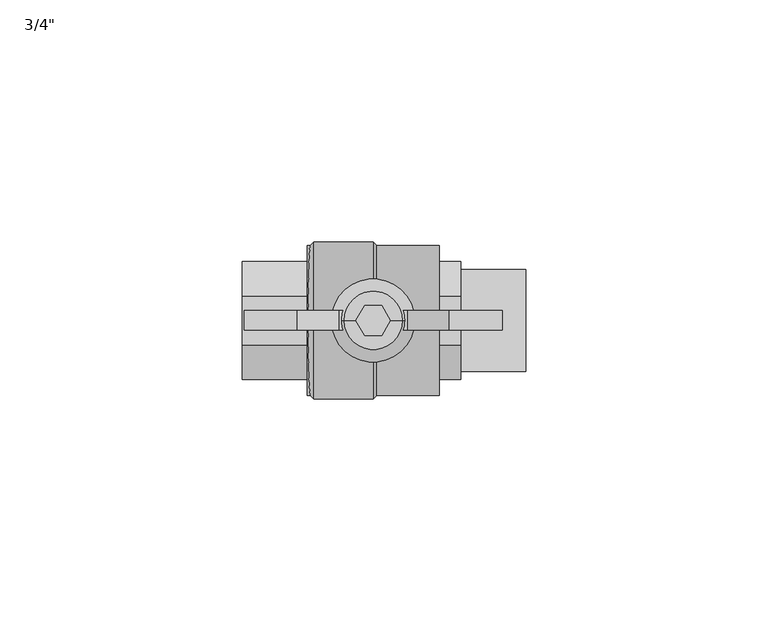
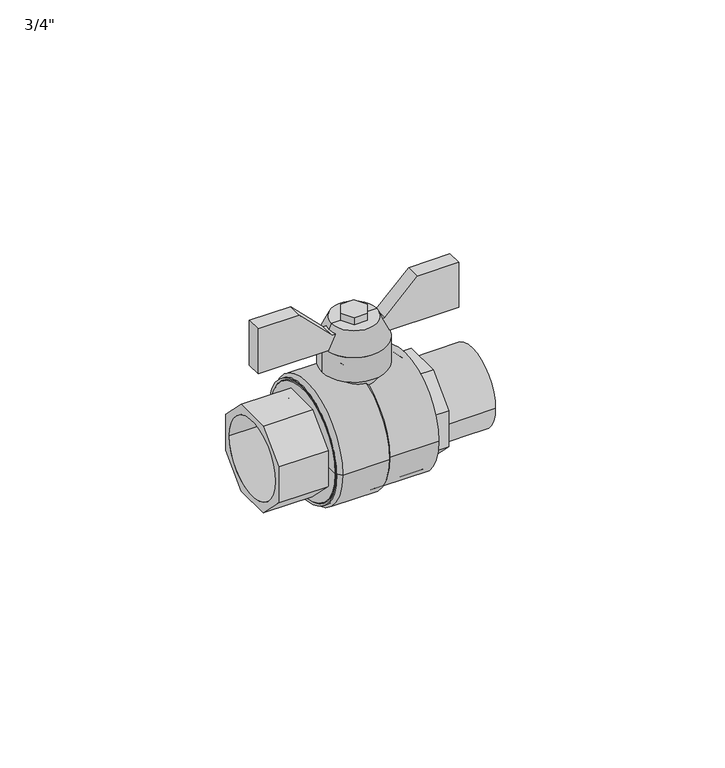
"""IFC4 building model written with IfcOpenShell, lengths in millimetres: pipe fitting geometry."""

from ifc_helpers import new_model, si_unit, point, frame, origin, origin_with_axes, origin_2d, place, context, project, spatial, polyline, circle_curve, trimmed, segment, composite_curve, outline, extrude, source, transform, mapped, element, save
from ifc_brep_helpers import plane_surface, cylinder_surface, revolved_surface, advanced_brep


def pipe_fitting_b5fef691(model_context):
    return source(origin(), model_context, "Body", "SolidModel", [
        advanced_brep(
        [(0.7042017, -15.5, 0.0), (0.7042017, 15.5, 0.0), (13.65, 15.5, 0.0), (13.65, -15.5, 0.0), (13.65, 0.0, 0.0), (-13.65, 0.0, 0.0), (-13.65, 14.7957864, 0.0), (-13.65, -14.7957864, 0.0), (-12.2357864, -16.21, 0.0), (-12.2357864, 16.21, 0.0), (0.0, 16.21, 0.0), (0.0, -16.21, 0.0)],
        [
            (0, 1, circle_curve(frame((0.7042017, 0.0, 0.0), z_axis=(1.0, 0.0, 0.0), x_axis=(0.0, 1.0, 0.0)), 15.5)),
            (1, 2),
            (2, 3, circle_curve(frame((13.65, 0.0, 0.0), z_axis=(-1.0, 0.0, 0.0), x_axis=(0.0, 1.0, 0.0)), 15.5)),
            (3, 0),
            (1, 0, circle_curve(frame((0.7042017, 0.0, 0.0), z_axis=(1.0, 0.0, 0.0), x_axis=(0.0, 1.0, 0.0)), 15.5)),
            (3, 2, circle_curve(frame((13.65, 0.0, 0.0), z_axis=(-1.0, 0.0, 0.0), x_axis=(0.0, 1.0, 0.0)), 15.5)),
            (2, 4),
            (4, 3),
            (5, 6),
            (6, 7, circle_curve(frame((-13.65, 0.0, 0.0), z_axis=(-1.0, 0.0, 0.0), x_axis=(0.0, 1.0, 0.0)), 14.7957864)),
            (7, 5),
            (7, 6, circle_curve(frame((-13.65, 0.0, 0.0), z_axis=(-1.0, 0.0, 0.0), x_axis=(0.0, 1.0, 0.0)), 14.7957864)),
            (8, 9, circle_curve(frame((-12.2357864, 0.0, 0.0), z_axis=(1.0, 0.0, 0.0), x_axis=(0.0, 1.0, 0.0)), 16.21)),
            (9, 10),
            (10, 11, circle_curve(frame((0.0, 0.0, 0.0), z_axis=(-1.0, 0.0, 0.0), x_axis=(0.0, 1.0, 0.0)), 16.21)),
            (11, 8),
            (9, 8, circle_curve(frame((-12.2357864, 0.0, 0.0), z_axis=(1.0, 0.0, 0.0), x_axis=(0.0, 1.0, 0.0)), 16.21)),
            (11, 10, circle_curve(frame((0.0, 0.0, 0.0), z_axis=(-1.0, 0.0, 0.0), x_axis=(0.0, 1.0, 0.0)), 16.21)),
            (6, 9),
            (8, 7),
            (10, 1),
            (0, 11),
        ],
        [
            cylinder_surface(frame((-1993.4369923, 0.0, 0.0), z_axis=(-1.0, 0.0, 0.0), x_axis=(0.0, 1.0, 0.0)), 15.5),
            plane_surface(frame((13.65, 0.0, 0.0), z_axis=(1.0, 0.0, 0.0), x_axis=(0.0, 1.0, 0.0))),
            plane_surface(frame((-13.65, 0.0, 0.0), z_axis=(-1.0, 0.0, 0.0), x_axis=(0.0, 1.0, 0.0))),
            cylinder_surface(frame((-1993.4369923, 0.0, 0.0), z_axis=(-1.0, 0.0, 0.0), x_axis=(0.0, 1.0, 0.0)), 16.21),
            revolved_surface(polyline([(-12.2357864, 16.21, 0.0), (-13.65, 14.7957864, 0.0)]), (-1993.4369923, 0.0, 0.0), (-1.0, 0.0, 0.0)),
            revolved_surface(polyline([(0.7042017, 15.5, 0.0), (0.0, 16.21, 0.0)]), (-1993.4369923, 0.0, 0.0), (-1.0, 0.0, 0.0)),
        ],
        [
            (0, [[1, 2, 3, 4]]),
            (0, [[5, -4, 6, -2]]),
            (1, [[-3, 7, 8]]),
            (1, [[-6, -8, -7]]),
            (2, [[9, 10, 11]]),
            (2, [[-11, 12, -9]]),
            (3, [[13, 14, 15, 16]]),
            (3, [[17, -16, 18, -14]]),
            (4, [[-10, 19, -13, 20]]),
            (4, [[-12, -20, -17, -19]]),
            (5, [[-15, 21, -1, 22]]),
            (5, [[-18, -22, -5, -21]]),
        ],
    ),
        extrude(outline(composite_curve([segment(trimmed(circle_curve(origin_2d(), 10.525), [point((10.525, 0.0))], [point((-10.525, 0.0))], False, "CARTESIAN"), True, "CONTINUOUS"), segment(trimmed(circle_curve(origin_2d(), 10.525), [point((-10.525, 0.0))], [point((10.525, 0.0))], False, "CARTESIAN"), True, "CONTINUOUS")], self_intersect=False), holes=[composite_curve([segment(trimmed(circle_curve(origin_2d(), 9.525), [point((9.525, 0.0))], [point((-9.525, 0.0))], True, "CARTESIAN"), True, "CONTINUOUS"), segment(trimmed(circle_curve(origin_2d(), 9.525), [point((-9.525, 0.0))], [point((9.525, 0.0))], True, "CARTESIAN"), True, "CONTINUOUS")], self_intersect=False)]), frame((18.15, 0.0, 0.0), z_axis=(1.0, 0.0, 0.0), x_axis=(0.0, 1.0, 0.0)), (0.0, 0.0, 1.0), 13.4),
        extrude(outline(polyline([(-3.5393146, 0.0), (-1.75, 3.0991838), (1.75, 3.0991838), (3.5393146, 0.0), (1.75, -3.1008162), (-1.75, -3.1008162), (-3.5393146, 0.0)])), frame((0.0, 0.0, 30.66), z_axis=(0.0, 0.0, 1.0), x_axis=(1.0, 0.0, 0.0)), (0.0, 0.0, 1.0), 2.0),
        extrude(outline(polyline([(24.9, -26.65), (24.9, -3.0), (28.9, -3.0), (28.9, -7.0), (37.56, -15.66), (37.56, -26.65), (24.9, -26.65)])), frame((0.0, -2.0, 0.0), z_axis=(0.0, 1.0, 0.0), x_axis=(0.0, 0.0, 1.0)), (0.0, 0.0, 1.0), 4.0),
        extrude(outline(polyline([(24.9, 26.65), (37.56, 26.65), (37.56, 15.66), (28.9, 7.0), (28.9, 3.0), (24.9, 3.0), (24.9, 26.65)])), frame((0.0, -2.0, 0.0), z_axis=(0.0, 1.0, 0.0), x_axis=(0.0, 0.0, 1.0)), (0.0, 0.0, 1.0), 4.0),
        extrude(outline(polyline([(12.1917785, 5.05), (12.1917785, -5.05), (5.05, -12.1917785), (-5.05, -12.1917785), (-12.1917785, -5.05), (-12.1917785, 5.05), (-5.05, 12.1917785), (5.05, 12.1917785), (12.1917785, 5.05)]), holes=[composite_curve([segment(trimmed(circle_curve(origin_2d(), 10.525), [point((10.525, 0.0))], [point((-10.525, 0.0))], True, "CARTESIAN"), True, "CONTINUOUS"), segment(trimmed(circle_curve(origin_2d(), 10.525), [point((-10.525, 0.0))], [point((10.525, 0.0))], True, "CARTESIAN"), True, "CONTINUOUS")], self_intersect=False)]), frame((-27.05, 0.0, 0.0), z_axis=(1.0, 0.0, 0.0), x_axis=(0.0, 1.0, 0.0)), (0.0, 0.0, 1.0), 13.4),
        advanced_brep(
        [(-8.6, 0.0, 18.0), (8.6, 0.0, 18.0), (0.0, 0.0, 18.0), (0.0, 0.0, 30.66), (6.0, 0.0, 30.66), (-6.0, 0.0, 30.66), (-8.6, 0.0, 24.9), (8.6, 0.0, 24.9)],
        [
            (0, 1, circle_curve(frame((0.0, 0.0, 18.0), z_axis=(0.0, 0.0, -1.0), x_axis=(1.0, 0.0, 0.0)), 8.6)),
            (1, 2),
            (2, 0),
            (1, 0, circle_curve(frame((0.0, 0.0, 18.0), z_axis=(0.0, 0.0, -1.0), x_axis=(1.0, 0.0, 0.0)), 8.6)),
            (3, 4),
            (4, 5, circle_curve(frame((0.0, 0.0, 30.66), z_axis=(0.0, 0.0, 1.0), x_axis=(1.0, 0.0, 0.0)), 6.0)),
            (5, 3),
            (5, 4, circle_curve(frame((0.0, 0.0, 30.66), z_axis=(0.0, 0.0, 1.0), x_axis=(1.0, 0.0, 0.0)), 6.0)),
            (6, 7, circle_curve(frame((0.0, 0.0, 24.9), z_axis=(0.0, 0.0, -1.0), x_axis=(1.0, 0.0, 0.0)), 8.6)),
            (7, 1),
            (0, 6),
            (7, 6, circle_curve(frame((0.0, 0.0, 24.9), z_axis=(0.0, 0.0, -1.0), x_axis=(1.0, 0.0, 0.0)), 8.6)),
            (4, 7),
            (6, 5),
        ],
        [
            plane_surface(frame((0.0, 0.0, 18.0), z_axis=(0.0, 0.0, -1.0), x_axis=(1.0, 0.0, 0.0))),
            plane_surface(frame((0.0, 0.0, 30.66), z_axis=(0.0, 0.0, 1.0), x_axis=(1.0, 0.0, 0.0))),
            cylinder_surface(frame((0.0, 0.0, 2214.5231281), z_axis=(0.0, 0.0, 1.0), x_axis=(1.0, 0.0, 0.0)), 8.6),
            revolved_surface(polyline([(8.6, 0.0, 24.9), (6.0, 0.0, 30.66)]), (0.0, 0.0, 2214.5231281), (0.0, 0.0, 1.0)),
        ],
        [
            (0, [[1, 2, 3]]),
            (0, [[4, -3, -2]]),
            (1, [[5, 6, 7]]),
            (1, [[-7, 8, -5]]),
            (2, [[9, 10, -1, 11]]),
            (2, [[12, -11, -4, -10]]),
            (3, [[-6, 13, -9, 14]]),
            (3, [[-8, -14, -12, -13]]),
        ],
    ),
        extrude(outline(composite_curve([segment(trimmed(circle_curve(origin_2d(), 6.0), [point((-6.0, 0.0))], [point((6.0, 0.0))], False, "CARTESIAN"), True, "CONTINUOUS"), segment(trimmed(circle_curve(origin_2d(), 6.0), [point((6.0, 0.0))], [point((-6.0, 0.0))], False, "CARTESIAN"), True, "CONTINUOUS")], self_intersect=False)), origin_with_axes(), (0.0, 0.0, 1.0), 18.0),
        extrude(outline(polyline([(12.1917785, 5.05), (12.1917785, -5.05), (5.05, -12.1917785), (-5.05, -12.1917785), (-12.1917785, -5.05), (-12.1917785, 5.05), (-5.05, 12.1917785), (5.05, 12.1917785), (12.1917785, 5.05)]), holes=[composite_curve([segment(trimmed(circle_curve(origin_2d(), 10.525), [point((10.525, 0.0))], [point((-10.525, 0.0))], True, "CARTESIAN"), True, "CONTINUOUS"), segment(trimmed(circle_curve(origin_2d(), 10.525), [point((-10.525, 0.0))], [point((10.525, 0.0))], True, "CARTESIAN"), True, "CONTINUOUS")], self_intersect=False)]), frame((13.65, 0.0, 0.0), z_axis=(1.0, 0.0, 0.0), x_axis=(0.0, 1.0, 0.0)), (0.0, 0.0, 1.0), 4.5),
        advanced_brep(
        [(-13.65, -15.5, 0.0), (-13.65, 15.5, 0.0), (-0.7042017, 15.5, 0.0), (-0.7042017, -15.5, 0.0), (-13.65, 0.0, 0.0), (13.65, -13.3757864, 0.0), (13.65, 13.3757864, 0.0), (13.65, 0.0, 0.0), (0.0, -14.79, 0.0), (0.0, 14.79, 0.0), (12.2357864, 14.79, 0.0), (12.2357864, -14.79, 0.0)],
        [
            (0, 1, circle_curve(frame((-13.65, 0.0, 0.0), z_axis=(1.0, 0.0, 0.0), x_axis=(0.0, 1.0, 0.0)), 15.5)),
            (1, 2),
            (2, 3, circle_curve(frame((-0.7042017, 0.0, 0.0), z_axis=(-1.0, 0.0, 0.0), x_axis=(0.0, 1.0, 0.0)), 15.5)),
            (3, 0),
            (1, 0, circle_curve(frame((-13.65, 0.0, 0.0), z_axis=(1.0, 0.0, 0.0), x_axis=(0.0, 1.0, 0.0)), 15.5)),
            (3, 2, circle_curve(frame((-0.7042017, 0.0, 0.0), z_axis=(-1.0, 0.0, 0.0), x_axis=(0.0, 1.0, 0.0)), 15.5)),
            (4, 1),
            (0, 4),
            (5, 6, circle_curve(frame((13.65, 0.0, 0.0), z_axis=(1.0, 0.0, 0.0), x_axis=(0.0, 1.0, 0.0)), 13.3757864)),
            (6, 7),
            (7, 5),
            (6, 5, circle_curve(frame((13.65, 0.0, 0.0), z_axis=(1.0, 0.0, 0.0), x_axis=(0.0, 1.0, 0.0)), 13.3757864)),
            (8, 9, circle_curve(frame((0.0, 0.0, 0.0), z_axis=(1.0, 0.0, 0.0), x_axis=(0.0, 1.0, 0.0)), 14.79)),
            (9, 10),
            (10, 11, circle_curve(frame((12.2357864, 0.0, 0.0), z_axis=(-1.0, 0.0, 0.0), x_axis=(0.0, 1.0, 0.0)), 14.79)),
            (11, 8),
            (9, 8, circle_curve(frame((0.0, 0.0, 0.0), z_axis=(1.0, 0.0, 0.0), x_axis=(0.0, 1.0, 0.0)), 14.79)),
            (11, 10, circle_curve(frame((12.2357864, 0.0, 0.0), z_axis=(-1.0, 0.0, 0.0), x_axis=(0.0, 1.0, 0.0)), 14.79)),
            (10, 6),
            (5, 11),
            (2, 9),
            (8, 3),
        ],
        [
            cylinder_surface(frame((1982.9369923, 0.0, 0.0), z_axis=(-1.0, 0.0, 0.0), x_axis=(0.0, 1.0, 0.0)), 15.5),
            plane_surface(frame((-13.65, 0.0, 0.0), z_axis=(-1.0, 0.0, 0.0), x_axis=(0.0, 1.0, 0.0))),
            plane_surface(frame((13.65, 0.0, 0.0), z_axis=(1.0, 0.0, 0.0), x_axis=(0.0, 1.0, 0.0))),
            cylinder_surface(frame((1982.9369923, 0.0, 0.0), z_axis=(-1.0, 0.0, 0.0), x_axis=(0.0, 1.0, 0.0)), 14.79),
            revolved_surface(polyline([(13.65, 13.3757864, 0.0), (12.2357864, 14.79, 0.0)]), (1982.9369923, 0.0, 0.0), (-1.0, 0.0, 0.0)),
            revolved_surface(polyline([(0.0, 14.79, 0.0), (-0.7042017, 15.5, 0.0)]), (1982.9369923, 0.0, 0.0), (-1.0, 0.0, 0.0)),
        ],
        [
            (0, [[1, 2, 3, 4]]),
            (0, [[5, -4, 6, -2]]),
            (1, [[7, -1, 8]]),
            (1, [[-8, -5, -7]]),
            (2, [[9, 10, 11]]),
            (2, [[12, -11, -10]]),
            (3, [[13, 14, 15, 16]]),
            (3, [[17, -16, 18, -14]]),
            (4, [[-15, 19, -9, 20]]),
            (4, [[-18, -20, -12, -19]]),
            (5, [[-3, 21, -13, 22]]),
            (5, [[-6, -22, -17, -21]]),
        ],
    ),
    ])


if __name__ == "__main__":
    model = new_model("IFC4")
    model_context = context("Model", 3, world=origin())
    ifc_project = project(units=[si_unit("LENGTHUNIT", "METRE", prefix="MILLI")], contexts=[model_context])
    site = spatial("IfcSite", under=ifc_project)
    building = spatial("IfcBuilding", under=site)
    placement = place(None, origin())
    pipe_fitting_shape = pipe_fitting_b5fef691(model_context)
    element("IfcPipeFitting", 1, ObjectType="AmancoWavin_Gas_Válvula Esfera MF Borboleta : 3/4\"", at=placement, inside=building, context=model_context, shape_type="MappedRepresentation", body=[
        mapped(pipe_fitting_shape, transform((0.0, 0.0, 0.0), x_axis=(1.0, 0.0, 0.0), y_axis=(0.0, 1.0, 0.0), z_axis=(0.0, 0.0, 1.0))),
    ])
    save(model, "model.ifc")
